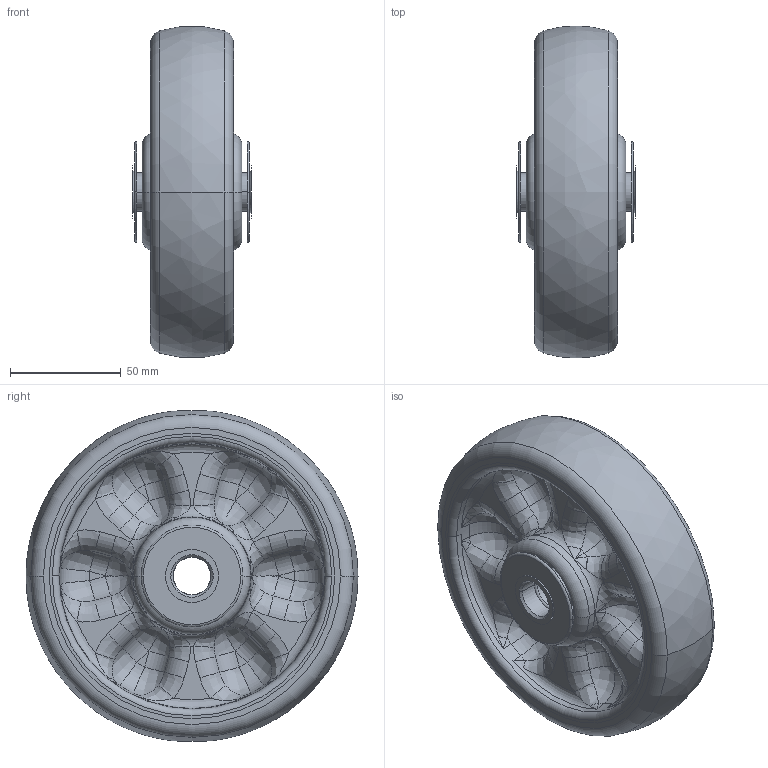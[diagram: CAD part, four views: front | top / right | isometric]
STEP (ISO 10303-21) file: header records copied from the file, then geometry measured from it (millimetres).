
FILE_DESCRIPTION((''),'2;1');
FILE_NAME('PRT0007','2025-09-19T16:38:06',('Administrator'),(''),'CREO PARAMETRIC BY PTC INC, 2022124','CREO PARAMETRIC BY PTC INC, 2022124','');
FILE_SCHEMA(('AUTOMOTIVE_DESIGN { 1 0 10303 214 1 1 1 1 }'));
Length unit declared in the file: millimetre
Products named in the file (1): PRT0007
Bounding box: 53.4 x 150 x 149.52 mm (x, y, z)
Surface area: 66437.2 mm2 (no closed solid volume)
Topology: 0 solids, 12 shells, 404 faces, 1020 edges, 596 vertices
Faces by surface type: bspline 242, cylinder 58, torus 56, plane 36, cone 12
Entity records: 28095 total; most frequent: CARTESIAN_POINT 17122, ORIENTED_EDGE 1872, DIRECTION 1381, EDGE_CURVE 1020, AXIS2_PLACEMENT_3D 642, VERTEX_POINT 596, CIRCLE 470, B_SPLINE_CURVE_WITH_KNOTS 456
